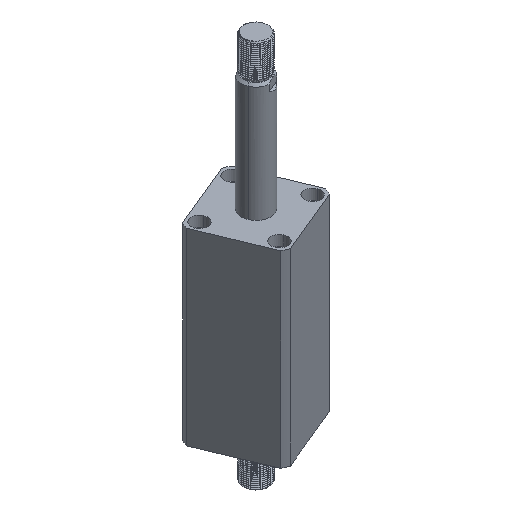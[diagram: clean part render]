
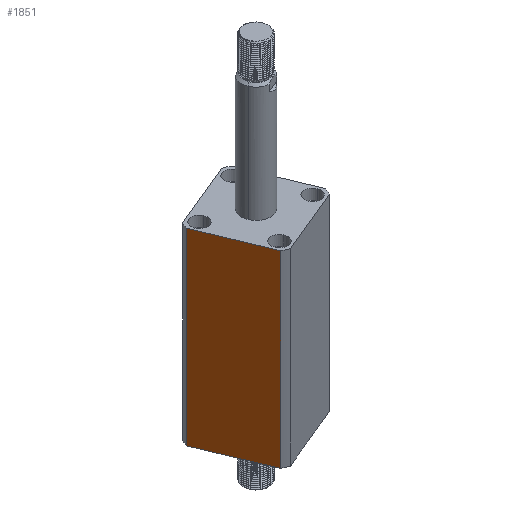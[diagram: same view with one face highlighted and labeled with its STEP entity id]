
A CAD part, isometric view. The second image highlights one B-rep face of the part: STEP entity #1851.
In plain terms, the highlighted planar face has unit normal (-0.924, -0.383, 0) as drawn and (1, 0, 0) by its records, which use the part's own axes.
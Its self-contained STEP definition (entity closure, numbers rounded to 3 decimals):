
#37 = AXIS2_PLACEMENT_3D ( 'NONE', #14930, #16332, #8199 ) ;
#933 = VECTOR ( 'NONE', #16379, 1000. ) ;
#1851 = ADVANCED_FACE ( 'NONE', ( #2885 ), #6836, .F. ) ;
#1904 = VERTEX_POINT ( 'NONE', #10981 ) ;
#1983 = LINE ( 'NONE', #3622, #15951 ) ;
#2407 = EDGE_CURVE ( 'NONE', #12538, #11805, #4548, .T. ) ;
#2885 = FACE_OUTER_BOUND ( 'NONE', #8413, .T. ) ;
#3029 = VECTOR ( 'NONE', #15086, 1000. ) ;
#3622 = CARTESIAN_POINT ( 'NONE',  ( 35., 35., 160. ) ) ;
#3635 = LINE ( 'NONE', #6359, #14013 ) ;
#4548 = LINE ( 'NONE', #14973, #933 ) ;
#6331 = CARTESIAN_POINT ( 'NONE',  ( 35., 30.615, 0. ) ) ;
#6359 = CARTESIAN_POINT ( 'NONE',  ( 35., 30.615, -140. ) ) ;
#6836 = PLANE ( 'NONE',  #37 ) ;
#6992 = CARTESIAN_POINT ( 'NONE',  ( 35., 35., 0. ) ) ;
#8171 = CARTESIAN_POINT ( 'NONE',  ( 35., -30.615, 160. ) ) ;
#8199 = DIRECTION ( 'NONE',  ( 0., -1., 0. ) ) ;
#8413 = EDGE_LOOP ( 'NONE', ( #15509, #15078, #14239, #17432 ) ) ;
#9795 = LINE ( 'NONE', #6992, #3029 ) ;
#10981 = CARTESIAN_POINT ( 'NONE',  ( 35., 30.615, 160. ) ) ;
#11437 = CARTESIAN_POINT ( 'NONE',  ( 35., -30.615, 0. ) ) ;
#11805 = VERTEX_POINT ( 'NONE', #8171 ) ;
#12538 = VERTEX_POINT ( 'NONE', #11437 ) ;
#13813 = EDGE_CURVE ( 'NONE', #11805, #1904, #1983, .T. ) ;
#14013 = VECTOR ( 'NONE', #14420, 1000. ) ;
#14239 = ORIENTED_EDGE ( 'NONE', *, *, #16172, .F. ) ;
#14420 = DIRECTION ( 'NONE',  ( 0., 0., -1. ) ) ;
#14439 = DIRECTION ( 'NONE',  ( 0., 1., 0. ) ) ;
#14930 = CARTESIAN_POINT ( 'NONE',  ( 35., 35., 160. ) ) ;
#14973 = CARTESIAN_POINT ( 'NONE',  ( 35., -30.615, -140. ) ) ;
#15073 = VERTEX_POINT ( 'NONE', #6331 ) ;
#15078 = ORIENTED_EDGE ( 'NONE', *, *, #15614, .T. ) ;
#15086 = DIRECTION ( 'NONE',  ( 0., 1., 0. ) ) ;
#15509 = ORIENTED_EDGE ( 'NONE', *, *, #2407, .F. ) ;
#15614 = EDGE_CURVE ( 'NONE', #12538, #15073, #9795, .T. ) ;
#15951 = VECTOR ( 'NONE', #14439, 1000. ) ;
#16172 = EDGE_CURVE ( 'NONE', #1904, #15073, #3635, .T. ) ;
#16332 = DIRECTION ( 'NONE',  ( -1., 0., 0. ) ) ;
#16379 = DIRECTION ( 'NONE',  ( 0., 0., 1. ) ) ;
#17432 = ORIENTED_EDGE ( 'NONE', *, *, #13813, .F. ) ;
